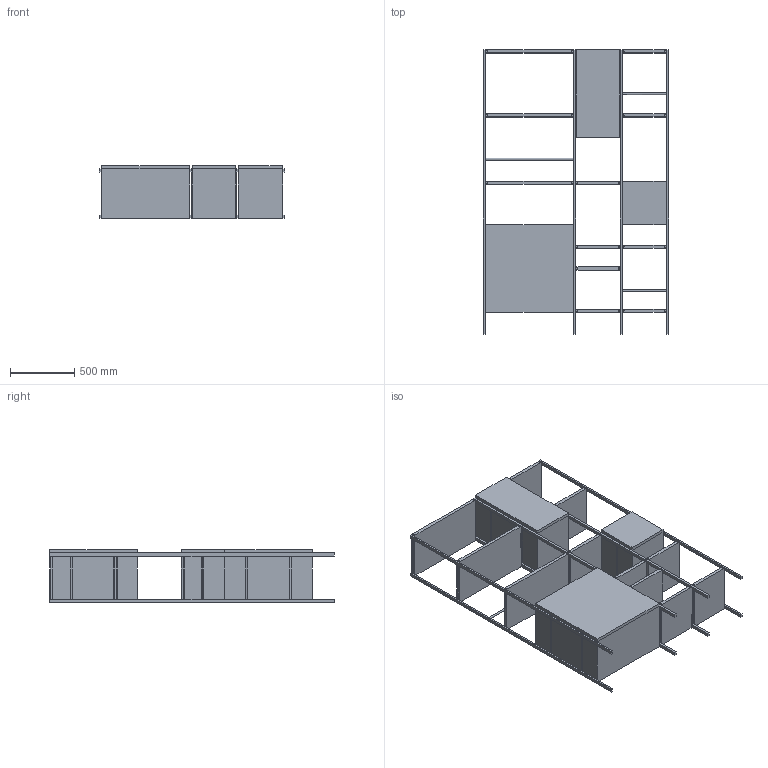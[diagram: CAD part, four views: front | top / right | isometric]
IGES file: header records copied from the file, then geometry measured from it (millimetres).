
Global section: file name: C:\Users\ComiIsacco\Desktop\outline B.igs; native system: Rhinoceros ( Mar  9 2011 ); preprocessor: Trout Lake IGES 012 Mar  9 2011; date: 200302.145239; units: millimetre
Bounding box: 1438 x 2210 x 410.11 mm (x, y, z)
Surface area: 14179606.1 mm2 (no closed solid volume)
Topology: 0 solids, 0 shells, 334 faces, 1738 edges, 1738 vertices
Faces by surface type: bspline 334
